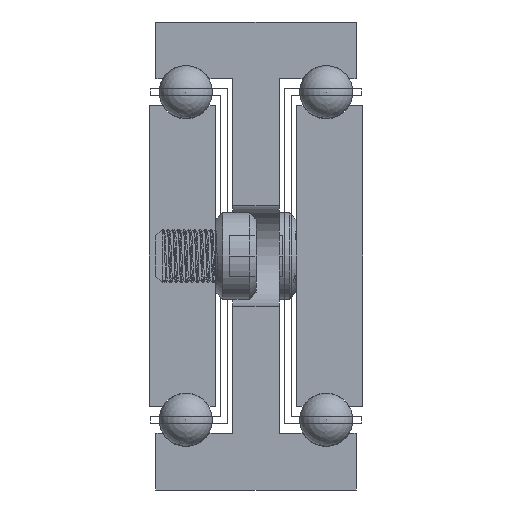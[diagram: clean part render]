
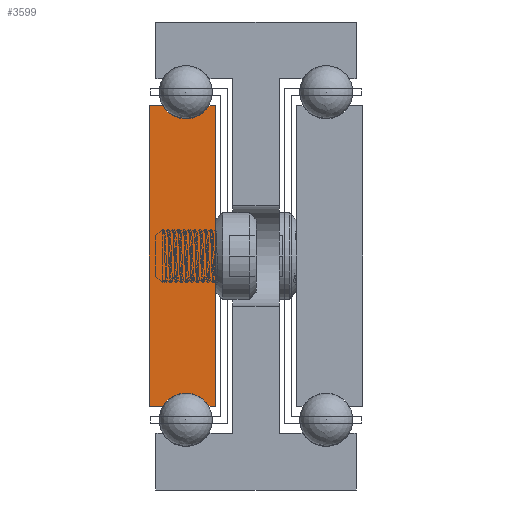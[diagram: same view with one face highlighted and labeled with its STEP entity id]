
A CAD part, front view. The second image highlights one B-rep face of the part: STEP entity #3599.
In plain terms, the highlighted planar face has unit normal (0, -1, 0).
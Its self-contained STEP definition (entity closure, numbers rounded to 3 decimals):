
#244=LINE('',#5426,#456);
#247=LINE('',#5432,#459);
#251=LINE('',#5444,#463);
#254=LINE('',#5450,#466);
#257=LINE('',#5456,#469);
#261=LINE('',#5466,#473);
#456=VECTOR('',#4346,1.);
#459=VECTOR('',#4351,1.);
#463=VECTOR('',#4363,1.);
#466=VECTOR('',#4368,1.);
#469=VECTOR('',#4373,1.);
#473=VECTOR('',#4385,1.);
#673=PLANE('',#3879);
#965=FACE_OUTER_BOUND('',#1191,.T.);
#1191=EDGE_LOOP('',(#2800,#2801,#2802,#2803,#2804,#2805,#2806,#2807));
#1545=CIRCLE('',#3870,4.);
#1547=CIRCLE('',#3876,4.);
#1798=VERTEX_POINT('',#5423);
#1799=VERTEX_POINT('',#5425);
#1801=VERTEX_POINT('',#5431);
#1803=VERTEX_POINT('',#5437);
#1805=VERTEX_POINT('',#5443);
#1807=VERTEX_POINT('',#5449);
#1809=VERTEX_POINT('',#5455);
#1811=VERTEX_POINT('',#5461);
#2252=EDGE_CURVE('',#1799,#1798,#244,.T.);
#2255=EDGE_CURVE('',#1801,#1799,#247,.T.);
#2258=EDGE_CURVE('',#1803,#1801,#1545,.T.);
#2261=EDGE_CURVE('',#1805,#1803,#251,.T.);
#2264=EDGE_CURVE('',#1807,#1805,#254,.T.);
#2267=EDGE_CURVE('',#1809,#1807,#257,.T.);
#2270=EDGE_CURVE('',#1811,#1809,#1547,.T.);
#2273=EDGE_CURVE('',#1798,#1811,#261,.T.);
#2800=ORIENTED_EDGE('',*,*,#2273,.T.);
#2801=ORIENTED_EDGE('',*,*,#2270,.T.);
#2802=ORIENTED_EDGE('',*,*,#2267,.T.);
#2803=ORIENTED_EDGE('',*,*,#2264,.T.);
#2804=ORIENTED_EDGE('',*,*,#2261,.T.);
#2805=ORIENTED_EDGE('',*,*,#2258,.T.);
#2806=ORIENTED_EDGE('',*,*,#2255,.T.);
#2807=ORIENTED_EDGE('',*,*,#2252,.T.);
#3599=ADVANCED_FACE('',(#965),#673,.T.);
#3870=AXIS2_PLACEMENT_3D('',#5438,#4357,#4358);
#3876=AXIS2_PLACEMENT_3D('',#5462,#4379,#4380);
#3879=AXIS2_PLACEMENT_3D('',#5468,#4388,#4389);
#4346=DIRECTION('',(0.,0.,-1.));
#4351=DIRECTION('',(-1.,0.,0.));
#4357=DIRECTION('center_axis',(0.,1.,0.));
#4358=DIRECTION('ref_axis',(-0.866,0.,-0.5));
#4363=DIRECTION('',(-1.,0.,0.));
#4368=DIRECTION('',(0.,0.,1.));
#4373=DIRECTION('',(1.,0.,0.));
#4379=DIRECTION('center_axis',(0.,1.,0.));
#4380=DIRECTION('ref_axis',(0.866,0.,0.5));
#4385=DIRECTION('',(1.,0.,0.));
#4388=DIRECTION('center_axis',(0.,-1.,0.));
#4389=DIRECTION('ref_axis',(1.,0.,0.));
#5423=CARTESIAN_POINT('',(-3018.106,-1217.553,477.5));
#5425=CARTESIAN_POINT('',(-3018.106,-1217.553,522.5));
#5426=CARTESIAN_POINT('',(-3018.106,-1217.553,477.5));
#5431=CARTESIAN_POINT('',(-3016.07,-1217.553,522.5));
#5432=CARTESIAN_POINT('',(-3018.106,-1217.553,522.5));
#5437=CARTESIAN_POINT('',(-3009.142,-1217.553,522.5));
#5438=CARTESIAN_POINT('Origin',(-3012.606,-1217.553,524.5));
#5443=CARTESIAN_POINT('',(-3008.106,-1217.553,522.5));
#5444=CARTESIAN_POINT('',(-3009.142,-1217.553,522.5));
#5449=CARTESIAN_POINT('',(-3008.106,-1217.553,477.5));
#5450=CARTESIAN_POINT('',(-3008.106,-1217.553,522.5));
#5455=CARTESIAN_POINT('',(-3009.142,-1217.553,477.5));
#5456=CARTESIAN_POINT('',(-3008.106,-1217.553,477.5));
#5461=CARTESIAN_POINT('',(-3016.07,-1217.553,477.5));
#5462=CARTESIAN_POINT('Origin',(-3012.606,-1217.553,475.5));
#5466=CARTESIAN_POINT('',(-3016.07,-1217.553,477.5));
#5468=CARTESIAN_POINT('Origin',(-3013.112,-1217.553,500.));
